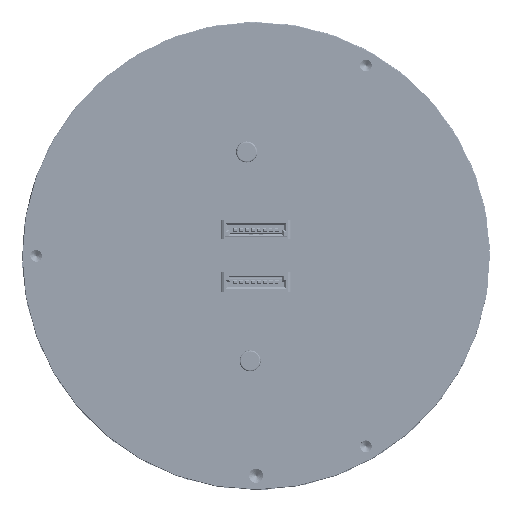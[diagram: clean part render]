
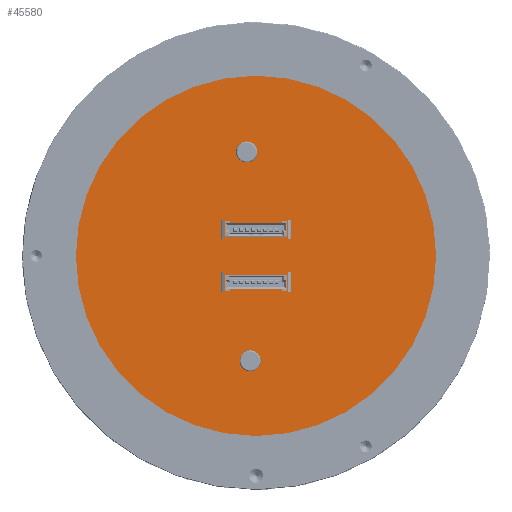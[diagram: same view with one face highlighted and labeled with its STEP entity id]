
A CAD part, top view. The second image highlights one B-rep face of the part: STEP entity #45580.
In plain terms, the highlighted planar face has unit normal (0, 0, 1).
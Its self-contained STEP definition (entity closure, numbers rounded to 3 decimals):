
#1593 = DIRECTION ( 'NONE',  ( 1., 0., 0. ) ) ;
#3061 = EDGE_CURVE ( 'NONE', #228944, #48593, #238051, .T. ) ;
#4338 = EDGE_CURVE ( 'NONE', #103047, #160374, #11450, .T. ) ;
#11450 = CIRCLE ( 'NONE', #156838, 38.5 ) ;
#16317 = VECTOR ( 'NONE', #248991, 1000. ) ;
#17552 = FACE_BOUND ( 'NONE', #254427, .T. ) ;
#21639 = EDGE_CURVE ( 'NONE', #80262, #36129, #159386, .T. ) ;
#24110 = CARTESIAN_POINT ( 'NONE',  ( 6.57, -4.135, 0. ) ) ;
#24932 = EDGE_CURVE ( 'NONE', #210427, #40929, #29989, .T. ) ;
#26121 = VERTEX_POINT ( 'NONE', #46356 ) ;
#29989 = LINE ( 'NONE', #109375, #201893 ) ;
#36129 = VERTEX_POINT ( 'NONE', #157659 ) ;
#39479 = EDGE_CURVE ( 'NONE', #48593, #80262, #233940, .T. ) ;
#39635 = DIRECTION ( 'NONE',  ( 0., 0., 1. ) ) ;
#40929 = VERTEX_POINT ( 'NONE', #24110 ) ;
#43680 = CARTESIAN_POINT ( 'NONE',  ( 0., -38.5, 0. ) ) ;
#44739 = DIRECTION ( 'NONE',  ( 0., 0., -1. ) ) ;
#45580 = ADVANCED_FACE ( 'NONE', ( #17552, #97002, #176163 ), #255457, .T. ) ;
#46356 = CARTESIAN_POINT ( 'NONE',  ( -6.57, -4.135, 0. ) ) ;
#46446 = EDGE_LOOP ( 'NONE', ( #213573, #80605, #141060, #249733 ) ) ;
#46938 = ORIENTED_EDGE ( 'NONE', *, *, #21639, .F. ) ;
#47082 = DIRECTION ( 'NONE',  ( 0., 0., -1. ) ) ;
#47460 = EDGE_LOOP ( 'NONE', ( #73183, #72232 ) ) ;
#48593 = VERTEX_POINT ( 'NONE', #86528 ) ;
#51098 = ORIENTED_EDGE ( 'NONE', *, *, #3061, .F. ) ;
#51226 = LINE ( 'NONE', #130596, #138814 ) ;
#55920 = CARTESIAN_POINT ( 'NONE',  ( -6.57, 7.065, 0. ) ) ;
#60021 = CARTESIAN_POINT ( 'NONE',  ( 6.57, 7.065, 0. ) ) ;
#60523 = DIRECTION ( 'NONE',  ( 0., -1., 0. ) ) ;
#65139 = VECTOR ( 'NONE', #69869, 1000. ) ;
#69869 = DIRECTION ( 'NONE',  ( 0., -1., 0. ) ) ;
#72232 = ORIENTED_EDGE ( 'NONE', *, *, #4338, .F. ) ;
#73183 = ORIENTED_EDGE ( 'NONE', *, *, #172344, .F. ) ;
#80262 = VERTEX_POINT ( 'NONE', #172856 ) ;
#80605 = ORIENTED_EDGE ( 'NONE', *, *, #109909, .F. ) ;
#86528 = CARTESIAN_POINT ( 'NONE',  ( 6.57, 7.065, 0. ) ) ;
#87071 = EDGE_CURVE ( 'NONE', #36129, #228944, #51226, .T. ) ;
#88686 = VERTEX_POINT ( 'NONE', #244309 ) ;
#90516 = LINE ( 'NONE', #169737, #16317 ) ;
#97002 = FACE_BOUND ( 'NONE', #46446, .T. ) ;
#100548 = LINE ( 'NONE', #179785, #249563 ) ;
#103047 = VERTEX_POINT ( 'NONE', #43680 ) ;
#109375 = CARTESIAN_POINT ( 'NONE',  ( 6.57, -4.135, 0. ) ) ;
#109909 = EDGE_CURVE ( 'NONE', #88686, #210427, #100548, .T. ) ;
#112352 = CARTESIAN_POINT ( 'NONE',  ( 0., 38.5, 0. ) ) ;
#118968 = DIRECTION ( 'NONE',  ( 0., 1., 0. ) ) ;
#124050 = DIRECTION ( 'NONE',  ( 0., -1., 0. ) ) ;
#124994 = AXIS2_PLACEMENT_3D ( 'NONE', #225181, #47082, #126414 ) ;
#126414 = DIRECTION ( 'NONE',  ( 0., -1., 0. ) ) ;
#130109 = AXIS2_PLACEMENT_3D ( 'NONE', #217752, #39635, #118968 ) ;
#130596 = CARTESIAN_POINT ( 'NONE',  ( -6.57, 4.135, 0. ) ) ;
#132506 = ORIENTED_EDGE ( 'NONE', *, *, #39479, .F. ) ;
#135241 = DIRECTION ( 'NONE',  ( -1., 0., 0. ) ) ;
#138814 = VECTOR ( 'NONE', #209822, 1000. ) ;
#139361 = DIRECTION ( 'NONE',  ( 0., 1., 0. ) ) ;
#141060 = ORIENTED_EDGE ( 'NONE', *, *, #144386, .F. ) ;
#144386 = EDGE_CURVE ( 'NONE', #26121, #88686, #168680, .T. ) ;
#156838 = AXIS2_PLACEMENT_3D ( 'NONE', #222827, #44739, #124050 ) ;
#157659 = CARTESIAN_POINT ( 'NONE',  ( -6.57, 4.135, 0. ) ) ;
#159386 = LINE ( 'NONE', #238543, #221628 ) ;
#160374 = VERTEX_POINT ( 'NONE', #112352 ) ;
#168680 = LINE ( 'NONE', #247924, #65139 ) ;
#169737 = CARTESIAN_POINT ( 'NONE',  ( 6.57, -4.135, 0. ) ) ;
#172344 = EDGE_CURVE ( 'NONE', #160374, #103047, #237016, .T. ) ;
#172856 = CARTESIAN_POINT ( 'NONE',  ( -6.57, 7.065, 0. ) ) ;
#176163 = FACE_OUTER_BOUND ( 'NONE', #47460, .T. ) ;
#179785 = CARTESIAN_POINT ( 'NONE',  ( 6.57, -7.065, 0. ) ) ;
#188609 = DIRECTION ( 'NONE',  ( 0., 1., 0. ) ) ;
#198850 = ORIENTED_EDGE ( 'NONE', *, *, #87071, .F. ) ;
#199058 = VECTOR ( 'NONE', #139361, 1000. ) ;
#201893 = VECTOR ( 'NONE', #188609, 1000. ) ;
#209822 = DIRECTION ( 'NONE',  ( 1., 0., 0. ) ) ;
#210427 = VERTEX_POINT ( 'NONE', #236288 ) ;
#213573 = ORIENTED_EDGE ( 'NONE', *, *, #24932, .F. ) ;
#216100 = CARTESIAN_POINT ( 'NONE',  ( 6.57, 4.135, 0. ) ) ;
#217752 = CARTESIAN_POINT ( 'NONE',  ( 38.5, 0., 0. ) ) ;
#221628 = VECTOR ( 'NONE', #60523, 1000. ) ;
#222827 = CARTESIAN_POINT ( 'NONE',  ( 0., 0., 0. ) ) ;
#224012 = VECTOR ( 'NONE', #135241, 1000. ) ;
#225181 = CARTESIAN_POINT ( 'NONE',  ( 0., 0., 0. ) ) ;
#228481 = EDGE_CURVE ( 'NONE', #40929, #26121, #90516, .T. ) ;
#228944 = VERTEX_POINT ( 'NONE', #216100 ) ;
#233940 = LINE ( 'NONE', #55920, #224012 ) ;
#236288 = CARTESIAN_POINT ( 'NONE',  ( 6.57, -7.065, 0. ) ) ;
#237016 = CIRCLE ( 'NONE', #124994, 38.5 ) ;
#238051 = LINE ( 'NONE', #60021, #199058 ) ;
#238543 = CARTESIAN_POINT ( 'NONE',  ( -6.57, 7.065, 0. ) ) ;
#244309 = CARTESIAN_POINT ( 'NONE',  ( -6.57, -7.065, 0. ) ) ;
#247924 = CARTESIAN_POINT ( 'NONE',  ( -6.57, -4.135, 0. ) ) ;
#248991 = DIRECTION ( 'NONE',  ( -1., 0., 0. ) ) ;
#249563 = VECTOR ( 'NONE', #1593, 1000. ) ;
#249733 = ORIENTED_EDGE ( 'NONE', *, *, #228481, .F. ) ;
#254427 = EDGE_LOOP ( 'NONE', ( #46938, #132506, #51098, #198850 ) ) ;
#255457 = PLANE ( 'NONE',  #130109 ) ;
